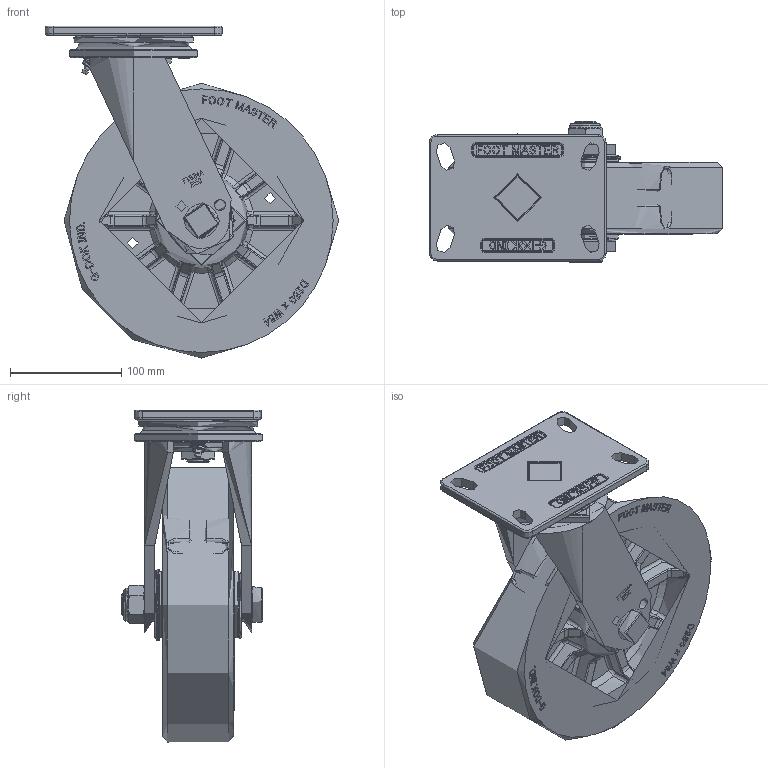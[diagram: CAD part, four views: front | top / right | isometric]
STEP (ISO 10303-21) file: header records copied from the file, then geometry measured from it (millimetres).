
FILE_DESCRIPTION(/* description */ (''),/* implementation_level */ '2;1');
FILE_NAME(/* name */ 'E:\개발도면\GF-SERIES\GF-250\인벤터\홈페이지용 도면-20150310\STEP\GF-250-ASF-MUD.stp',/* time_stamp */ '2015-03-17T20:14:21+09:00',/* author */ ('장용하'),/* organization */ (''),/* preprocessor_version */ 'ST-DEVELOPER v15.6',/* originating_system */ 'Autodesk Inventor 2015',/* authorisation */ '');
FILE_SCHEMA (('AUTOMOTIVE_DESIGN { 1 0 10303 214 3 1 1 }'));
Products named in the file (1): GF-250-ASF-MUD
Bounding box: 263.77 x 127 x 298.48 mm (x, y, z)
Topology: 1 solids, 11 shells, 2230 faces, 5688 edges, 3536 vertices
Faces by surface type: plane 933, bspline 706, cylinder 394, torus 124, cone 65, sphere 8
Full cylindrical faces by diameter (mm): 6 x1, 10 x4, 20 x6, 20.2 x2, 24.9 x2, 30 x1, 32 x1, 34 x2, 43 x2, 59 x1, 64.519 x2, 115 x1
Entity records: 78325 total; most frequent: CARTESIAN_POINT 26862, ORIENTED_EDGE 11132, DIRECTION 8686, EDGE_CURVE 5564, VERTEX_POINT 3508, AXIS2_PLACEMENT_3D 2898, LINE 2890, VECTOR 2890
